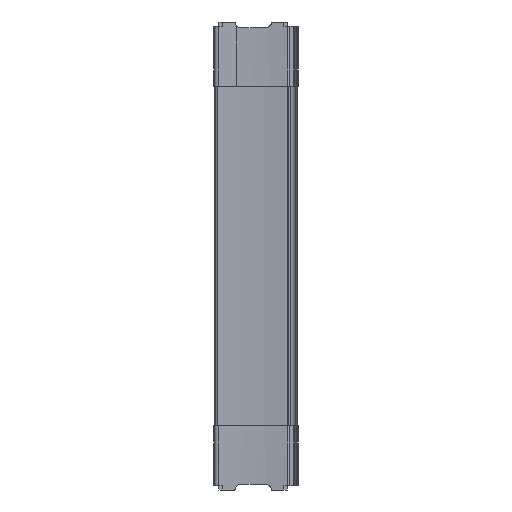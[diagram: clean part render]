
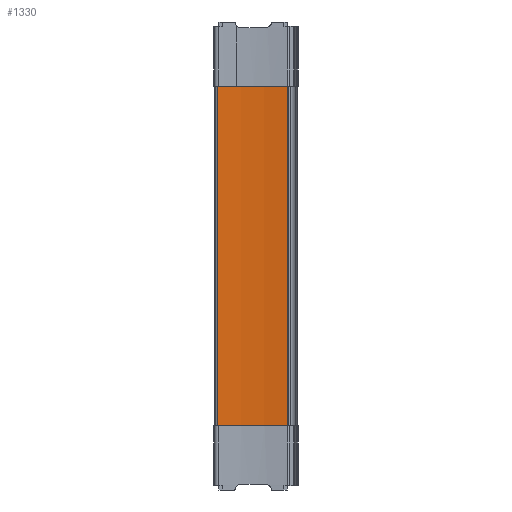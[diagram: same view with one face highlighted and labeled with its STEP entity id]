
A CAD part, left-side view. The second image highlights one B-rep face of the part: STEP entity #1330.
In plain terms, the highlighted cylindrical face has radius 250 mm (diameter 500 mm), a partial arc.
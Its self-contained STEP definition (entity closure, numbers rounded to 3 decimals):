
#13 = LINE ( 'NONE', #2646, #23 ) ;
#23 = VECTOR ( 'NONE', #2647, 1000. ) ;
#177 = CIRCLE ( 'NONE', #1444, 250. ) ;
#703 = ORIENTED_EDGE ( 'NONE', *, *, #1185, .F. ) ;
#704 = ORIENTED_EDGE ( 'NONE', *, *, #1182, .F. ) ;
#705 = ORIENTED_EDGE ( 'NONE', *, *, #1080, .F. ) ;
#706 = ORIENTED_EDGE ( 'NONE', *, *, #1229, .T. ) ;
#1080 = EDGE_CURVE ( 'NONE', #2315, #2403, #177, .T. ) ;
#1182 = EDGE_CURVE ( 'NONE', #2403, #2402, #13, .T. ) ;
#1185 = EDGE_CURVE ( 'NONE', #2402, #2313, #3687, .T. ) ;
#1229 = EDGE_CURVE ( 'NONE', #2315, #2313, #3669, .T. ) ;
#1330 = ADVANCED_FACE ( 'NONE', ( #3551 ), #3548, .F. ) ;
#1444 = AXIS2_PLACEMENT_3D ( 'NONE', #1691, #1686, #1685 ) ;
#1483 = AXIS2_PLACEMENT_3D ( 'NONE', #2648, #2653, #2654 ) ;
#1563 = AXIS2_PLACEMENT_3D ( 'NONE', #2983, #2982, #2981 ) ;
#1685 = DIRECTION ( 'NONE',  ( 1., 0., 0. ) ) ;
#1686 = DIRECTION ( 'NONE',  ( 0., 0., -1. ) ) ;
#1691 = CARTESIAN_POINT ( 'NONE',  ( -255.319, 48.963, 135.3 ) ) ;
#2313 = VERTEX_POINT ( 'NONE', #3220 ) ;
#2315 = VERTEX_POINT ( 'NONE', #3222 ) ;
#2402 = VERTEX_POINT ( 'NONE', #3309 ) ;
#2403 = VERTEX_POINT ( 'NONE', #3310 ) ;
#2646 = CARTESIAN_POINT ( 'NONE',  ( -8.643, 8.331, 141.3 ) ) ;
#2647 = DIRECTION ( 'NONE',  ( 0., 0., -1. ) ) ;
#2648 = CARTESIAN_POINT ( 'NONE',  ( -255.319, 48.963, -135.3 ) ) ;
#2653 = DIRECTION ( 'NONE',  ( 0., 0., 1. ) ) ;
#2654 = DIRECTION ( 'NONE',  ( -1., 0., 0. ) ) ;
#2763 = CARTESIAN_POINT ( 'NONE',  ( -5.747, 63.571, 141.3 ) ) ;
#2764 = DIRECTION ( 'NONE',  ( 0., 0., -1. ) ) ;
#2981 = DIRECTION ( 'NONE',  ( -1., 0., 0. ) ) ;
#2982 = DIRECTION ( 'NONE',  ( 0., 0., -1. ) ) ;
#2983 = CARTESIAN_POINT ( 'NONE',  ( -255.319, 48.963, 141.3 ) ) ;
#3220 = CARTESIAN_POINT ( 'NONE',  ( -5.747, 63.571, -135.3 ) ) ;
#3222 = CARTESIAN_POINT ( 'NONE',  ( -5.747, 63.571, 135.3 ) ) ;
#3309 = CARTESIAN_POINT ( 'NONE',  ( -8.643, 8.331, -135.3 ) ) ;
#3310 = CARTESIAN_POINT ( 'NONE',  ( -8.643, 8.331, 135.3 ) ) ;
#3548 = CYLINDRICAL_SURFACE ( 'NONE', #1563, 250. ) ;
#3551 = FACE_OUTER_BOUND ( 'NONE', #3898, .T. ) ;
#3665 = VECTOR ( 'NONE', #2764, 1000. ) ;
#3669 = LINE ( 'NONE', #2763, #3665 ) ;
#3687 = CIRCLE ( 'NONE', #1483, 250. ) ;
#3898 = EDGE_LOOP ( 'NONE', ( #703, #704, #705, #706 ) ) ;
